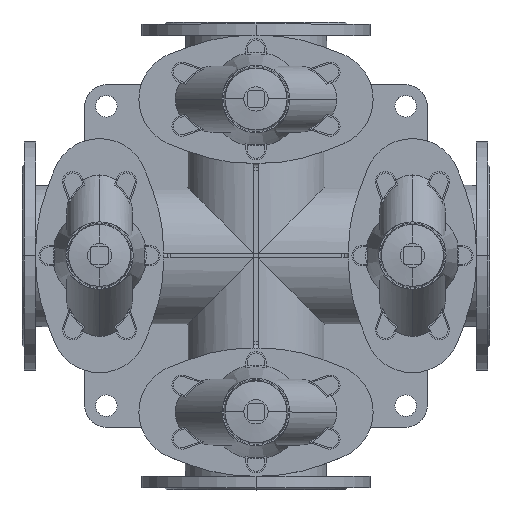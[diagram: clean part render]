
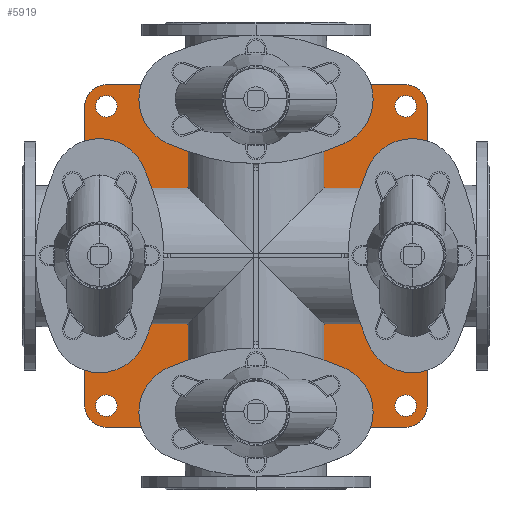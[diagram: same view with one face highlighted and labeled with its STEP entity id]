
A CAD part, top view. The second image highlights one B-rep face of the part: STEP entity #5919.
In plain terms, the highlighted planar face has unit normal (0, 0, 1).
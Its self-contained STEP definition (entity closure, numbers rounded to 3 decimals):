
#5919=ADVANCED_FACE('',(#11628,#11629,#11630,#11631,#11632),#11633,.F.);
#11628=FACE_BOUND('',#18823,.T.);
#11629=FACE_BOUND('',#18824,.T.);
#11630=FACE_BOUND('',#18825,.T.);
#11631=FACE_BOUND('',#18826,.T.);
#11632=FACE_OUTER_BOUND('',#18827,.T.);
#11633=PLANE('',#18828);
#18823=EDGE_LOOP('',(#30072,#30073));
#18824=EDGE_LOOP('',(#30074,#30075));
#18825=EDGE_LOOP('',(#30076,#30077));
#18826=EDGE_LOOP('',(#30078,#30079));
#18827=EDGE_LOOP('',(#30080,#30081,#30082,#30083,#30084,#30085,#30086,#30087));
#18828=AXIS2_PLACEMENT_3D('',#30088,#30089,#30090);
#30072=ORIENTED_EDGE('',*,*,#42628,.T.);
#30073=ORIENTED_EDGE('',*,*,#39177,.T.);
#30074=ORIENTED_EDGE('',*,*,#42629,.T.);
#30075=ORIENTED_EDGE('',*,*,#41056,.T.);
#30076=ORIENTED_EDGE('',*,*,#42630,.T.);
#30077=ORIENTED_EDGE('',*,*,#40439,.T.);
#30078=ORIENTED_EDGE('',*,*,#42269,.T.);
#30079=ORIENTED_EDGE('',*,*,#39945,.T.);
#30080=ORIENTED_EDGE('',*,*,#42631,.F.);
#30081=ORIENTED_EDGE('',*,*,#40104,.F.);
#30082=ORIENTED_EDGE('',*,*,#42632,.F.);
#30083=ORIENTED_EDGE('',*,*,#39934,.F.);
#30084=ORIENTED_EDGE('',*,*,#42633,.F.);
#30085=ORIENTED_EDGE('',*,*,#42634,.F.);
#30086=ORIENTED_EDGE('',*,*,#42635,.F.);
#30087=ORIENTED_EDGE('',*,*,#40242,.F.);
#30088=CARTESIAN_POINT('',(347.5,0.,27.0));
#30089=DIRECTION('',(0.0,0.0,-1.0));
#30090=DIRECTION('',(-1.0,0.0,0.0));
#39177=EDGE_CURVE('',#46203,#46200,#46204,.T.);
#39934=EDGE_CURVE('',#47478,#47479,#47480,.T.);
#39945=EDGE_CURVE('',#47498,#47495,#47499,.T.);
#40104=EDGE_CURVE('',#47762,#47763,#47764,.T.);
#40242=EDGE_CURVE('',#47999,#48000,#48001,.T.);
#40439=EDGE_CURVE('',#48316,#48313,#48317,.T.);
#41056=EDGE_CURVE('',#49278,#49275,#49279,.T.);
#42269=EDGE_CURVE('',#47495,#47498,#51069,.T.);
#42628=EDGE_CURVE('',#46200,#46203,#51566,.T.);
#42629=EDGE_CURVE('',#49275,#49278,#51567,.T.);
#42630=EDGE_CURVE('',#48313,#48316,#51568,.T.);
#42631=EDGE_CURVE('',#47763,#47999,#51569,.T.);
#42632=EDGE_CURVE('',#47479,#47762,#51570,.T.);
#42633=EDGE_CURVE('',#51571,#47478,#51572,.T.);
#42634=EDGE_CURVE('',#51573,#51571,#51574,.T.);
#42635=EDGE_CURVE('',#48000,#51573,#51575,.T.);
#46200=VERTEX_POINT('',#55887);
#46203=VERTEX_POINT('',#55891);
#46204=CIRCLE('',#55892,16.0);
#47478=VERTEX_POINT('',#57532);
#47479=VERTEX_POINT('',#57533);
#47480=CIRCLE('',#57534,32.0);
#47495=VERTEX_POINT('',#57552);
#47498=VERTEX_POINT('',#57556);
#47499=CIRCLE('',#57557,16.0);
#47762=VERTEX_POINT('',#57897);
#47763=VERTEX_POINT('',#57898);
#47764=CIRCLE('',#57899,32.0);
#47999=VERTEX_POINT('',#58202);
#48000=VERTEX_POINT('',#58203);
#48001=CIRCLE('',#58204,32.0);
#48313=VERTEX_POINT('',#58600);
#48316=VERTEX_POINT('',#58604);
#48317=CIRCLE('',#58605,16.0);
#49275=VERTEX_POINT('',#59852);
#49278=VERTEX_POINT('',#59856);
#49279=CIRCLE('',#59857,16.0);
#51069=CIRCLE('',#62203,16.0);
#51566=CIRCLE('',#62851,16.0);
#51567=CIRCLE('',#62852,16.0);
#51568=CIRCLE('',#62853,16.0);
#51569=LINE('',#62854,#62855);
#51570=LINE('',#62856,#62857);
#51571=VERTEX_POINT('',#62858);
#51572=LINE('',#62859,#62860);
#51573=VERTEX_POINT('',#62861);
#51574=CIRCLE('',#62862,32.0);
#51575=LINE('',#62863,#62864);
#55887=CARTESIAN_POINT('',(141.0,222.5,27.0));
#55891=CARTESIAN_POINT('',(109.0,222.5,27.0));
#55892=AXIS2_PLACEMENT_3D('',#67224,#67225,#67226);
#57532=CARTESIAN_POINT('',(570.0,254.5,27.0));
#57533=CARTESIAN_POINT('',(602.0,222.5,27.0));
#57534=AXIS2_PLACEMENT_3D('',#68283,#68284,#68285);
#57552=CARTESIAN_POINT('',(586.0,222.5,27.0));
#57556=CARTESIAN_POINT('',(554.0,222.5,27.0));
#57557=AXIS2_PLACEMENT_3D('',#68302,#68303,#68304);
#57897=CARTESIAN_POINT('',(602.0,-222.5,27.0));
#57898=CARTESIAN_POINT('',(570.0,-254.5,27.0));
#57899=AXIS2_PLACEMENT_3D('',#68529,#68530,#68531);
#58202=CARTESIAN_POINT('',(125.0,-254.5,27.0));
#58203=CARTESIAN_POINT('',(93.0,-222.5,27.0));
#58204=AXIS2_PLACEMENT_3D('',#68723,#68724,#68725);
#58600=CARTESIAN_POINT('',(586.0,-222.5,27.0));
#58604=CARTESIAN_POINT('',(554.0,-222.5,27.0));
#58605=AXIS2_PLACEMENT_3D('',#68997,#68998,#68999);
#59852=CARTESIAN_POINT('',(141.0,-222.5,27.0));
#59856=CARTESIAN_POINT('',(109.0,-222.5,27.0));
#59857=AXIS2_PLACEMENT_3D('',#69794,#69795,#69796);
#62203=AXIS2_PLACEMENT_3D('',#71343,#71344,#71345);
#62851=AXIS2_PLACEMENT_3D('',#71806,#71807,#71808);
#62852=AXIS2_PLACEMENT_3D('',#71809,#71810,#71811);
#62853=AXIS2_PLACEMENT_3D('',#71812,#71813,#71814);
#62854=CARTESIAN_POINT('',(570.0,-254.5,27.0));
#62855=VECTOR('',#71815,1.0);
#62856=CARTESIAN_POINT('',(602.0,222.5,27.0));
#62857=VECTOR('',#71816,1.0);
#62858=CARTESIAN_POINT('',(125.0,254.5,27.0));
#62859=CARTESIAN_POINT('',(125.0,254.5,27.0));
#62860=VECTOR('',#71817,1.0);
#62861=CARTESIAN_POINT('',(93.0,222.5,27.0));
#62862=AXIS2_PLACEMENT_3D('',#71818,#71819,#71820);
#62863=CARTESIAN_POINT('',(93.0,-222.5,27.0));
#62864=VECTOR('',#71821,1.0);
#67224=CARTESIAN_POINT('',(125.0,222.5,27.0));
#67225=DIRECTION('',(0.0,0.0,-1.0));
#67226=DIRECTION('',(1.0,0.0,0.0));
#68283=CARTESIAN_POINT('',(570.0,222.5,27.0));
#68284=DIRECTION('',(0.0,0.0,-1.0));
#68285=DIRECTION('',(-1.0,0.0,0.0));
#68302=CARTESIAN_POINT('',(570.0,222.5,27.0));
#68303=DIRECTION('',(0.0,0.0,-1.0));
#68304=DIRECTION('',(1.0,0.0,0.0));
#68529=CARTESIAN_POINT('',(570.0,-222.5,27.0));
#68530=DIRECTION('',(0.0,0.0,-1.0));
#68531=DIRECTION('',(-1.0,0.0,0.0));
#68723=CARTESIAN_POINT('',(125.0,-222.5,27.0));
#68724=DIRECTION('',(0.0,0.0,-1.0));
#68725=DIRECTION('',(-1.0,0.0,0.0));
#68997=CARTESIAN_POINT('',(570.0,-222.5,27.0));
#68998=DIRECTION('',(0.0,0.0,-1.0));
#68999=DIRECTION('',(1.0,0.0,0.0));
#69794=CARTESIAN_POINT('',(125.0,-222.5,27.0));
#69795=DIRECTION('',(0.0,0.0,-1.0));
#69796=DIRECTION('',(1.0,0.0,0.0));
#71343=CARTESIAN_POINT('',(570.0,222.5,27.0));
#71344=DIRECTION('',(0.0,0.0,-1.0));
#71345=DIRECTION('',(1.0,0.0,0.0));
#71806=CARTESIAN_POINT('',(125.0,222.5,27.0));
#71807=DIRECTION('',(0.0,0.0,-1.0));
#71808=DIRECTION('',(1.0,0.0,0.0));
#71809=CARTESIAN_POINT('',(125.0,-222.5,27.0));
#71810=DIRECTION('',(0.0,0.0,-1.0));
#71811=DIRECTION('',(1.0,0.0,0.0));
#71812=CARTESIAN_POINT('',(570.0,-222.5,27.0));
#71813=DIRECTION('',(0.0,0.0,-1.0));
#71814=DIRECTION('',(1.0,0.0,0.0));
#71815=DIRECTION('',(-1.0,0.0,0.0));
#71816=DIRECTION('',(0.0,-1.0,0.0));
#71817=DIRECTION('',(1.0,0.0,0.0));
#71818=CARTESIAN_POINT('',(125.0,222.5,27.0));
#71819=DIRECTION('',(0.0,0.0,-1.0));
#71820=DIRECTION('',(-1.0,0.0,0.0));
#71821=DIRECTION('',(0.0,1.0,0.0));
